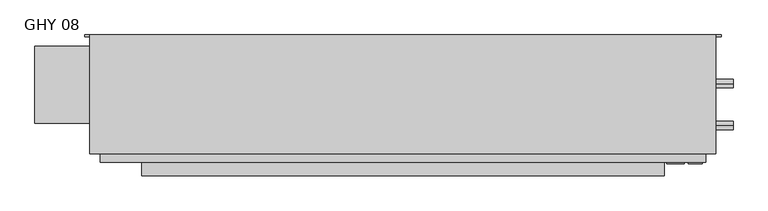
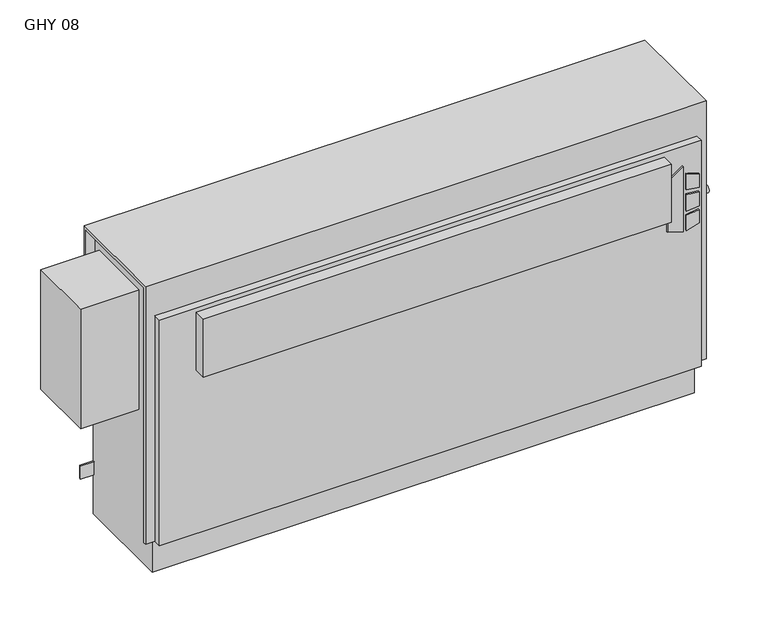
"""IFC4 building model written with IfcOpenShell, lengths in millimetres: proxy geometry, Vertical_Fan_Coil_Unit_-_GHY_-_IEC_-_2-Pipe_FS-FR_RH_2022 : GHY 08."""

from ifc_helpers import new_model, si_unit, point, frame, frame_2d, origin, place, context, project, spatial, polyline, circle_curve, trimmed, segment, composite_curve, outline, extrude, source, transform, mapped, element, save
from ifc_brep_helpers import plane_surface, revolved_surface, advanced_brep


def ghy_08_3972cffb(model_context):
    return source(origin(), model_context, "Body", "SolidModel", [
        extrude(outline(polyline([(391.6086829, 639.8368862), (381.6606126, 672.0102728), (523.831537, 672.0102728), (500.8095309, 639.8368862), (391.6086829, 639.8368862)])), frame((0.0, 6.35, 0.0), z_axis=(0.0, 1.0, 0.0), x_axis=(0.0, 0.0, 1.0)), (0.0, 0.0, 1.0), 3.175),
        extrude(outline(polyline([(470.6079683, 678.7686058), (467.4055757, 704.85), (496.6344168, 704.85), (504.6988318, 678.7686058), (470.6079683, 678.7686058)])), frame((0.0, 6.35, 0.0), z_axis=(0.0, 1.0, 0.0), x_axis=(0.0, 0.0, 1.0)), (0.0, 0.0, 1.0), 3.175),
        extrude(outline(polyline([(418.7444414, 704.85), (415.0789404, 678.7686058), (381.6606126, 678.7686058), (390.2948498, 704.85), (418.7444414, 704.85)])), frame((0.0, 6.35, 0.0), z_axis=(0.0, 1.0, 0.0), x_axis=(0.0, 0.0, 1.0)), (0.0, 0.0, 1.0), 3.175),
        extrude(outline(polyline([(458.0596028, 704.85), (460.3414292, 678.7686058), (424.4038806, 678.7686058), (427.1451456, 704.85), (458.0596028, 704.85)])), frame((0.0, 6.35, 0.0), z_axis=(0.0, 1.0, 0.0), x_axis=(0.0, 0.0, 1.0)), (0.0, 0.0, 1.0), 3.175),
        extrude(outline(polyline([(635.0, -15.875), (-330.2, -15.875), (-330.2, 9.525), (635.0, 9.525), (635.0, -15.875)])), frame((0.0, 0.0, 428.625), z_axis=(0.0, 0.0, 1.0), x_axis=(1.0, 0.0, 0.0)), (0.0, 0.0, 1.0), 127.0),
        extrude(outline(composite_curve([segment(trimmed(circle_curve(frame_2d((77.597, 401.574)), 7.9375), [point((77.597, 393.6365))], [point((77.597, 409.5115))], False, "CARTESIAN"), True, "CONTINUOUS"), segment(trimmed(circle_curve(frame_2d((77.597, 401.574)), 7.9375), [point((77.597, 409.5115))], [point((77.597, 393.6365))], False, "CARTESIAN"), True, "CONTINUOUS")], self_intersect=False)), frame((711.2, 0.0, 0.0), z_axis=(1.0, 0.0, 0.0), x_axis=(0.0, 1.0, 0.0)), (0.0, 0.0, 1.0), 50.8),
        extrude(outline(composite_curve([segment(trimmed(circle_curve(frame_2d((154.559, 540.512)), 7.9375), [point((154.559, 532.5745))], [point((154.559, 548.4495))], False, "CARTESIAN"), True, "CONTINUOUS"), segment(trimmed(circle_curve(frame_2d((154.559, 540.512)), 7.9375), [point((154.559, 548.4495))], [point((154.559, 532.5745))], False, "CARTESIAN"), True, "CONTINUOUS")], self_intersect=False)), frame((711.2, 0.0, 0.0), z_axis=(1.0, 0.0, 0.0), x_axis=(0.0, 1.0, 0.0)), (0.0, 0.0, 1.0), 50.8),
        extrude(outline(polyline([(-527.05, 223.266), (-406.4, 223.266), (-406.4, 81.534), (-527.05, 81.534), (-527.05, 223.266)])), frame((0.0, 0.0, 327.025), z_axis=(0.0, 0.0, 1.0), x_axis=(1.0, 0.0, 0.0)), (0.0, 0.0, 1.0), 260.35),
        advanced_brep(
        [(730.25, 244.475, 635.0), (-425.45, 244.475, 635.0), (-425.45, 25.4, 635.0), (730.25, 25.4, 635.0), (-406.4, 244.475, 0.0), (711.2, 244.475, 0.0), (711.2, 34.925, 0.0), (-406.4, 34.925, 0.0), (730.25, 244.475, 558.8), (711.2, 244.475, 558.8), (711.2, 244.475, 414.3375), (739.775, 244.475, 414.3375), (739.775, 244.475, 385.7625), (711.2, 244.475, 385.7625), (711.2, 244.475, 287.3375), (739.775, 244.475, 287.3375), (739.775, 244.475, 258.7625), (711.2, 244.475, 258.7625), (711.2, 244.475, 141.2875), (739.775, 244.475, 141.2875), (739.775, 244.475, 112.7125), (711.2, 244.475, 112.7125), (-406.4, 244.475, 87.3125), (-434.975, 244.475, 87.3125), (-434.975, 244.475, 115.8875), (-406.4, 244.475, 115.8875), (-406.4, 244.475, 258.7625), (-434.975, 244.475, 258.7625), (-434.975, 244.475, 287.3375), (-406.4, 244.475, 287.3375), (-406.4, 244.475, 385.7625), (-434.975, 244.475, 385.7625), (-434.975, 244.475, 414.3375), (-406.4, 244.475, 414.3375), (-406.4, 244.475, 558.8), (-425.45, 244.475, 558.8), (729.4626, 244.475, 127.0), (718.3374, 244.475, 127.0), (729.4626, 244.475, 273.05), (718.3374, 244.475, 273.05), (-413.5374, 244.475, 273.05), (-424.6626, 244.475, 273.05), (729.4626, 244.475, 400.05), (718.3374, 244.475, 400.05), (-413.5374, 244.475, 400.05), (-424.6626, 244.475, 400.05), (-425.45, 238.125, 558.8), (-425.45, 238.125, 628.65), (-425.45, 31.75, 628.65), (-425.45, 31.75, 73.025), (-425.45, 25.4, 73.025), (711.2, 9.525, 565.15), (-406.4, 9.525, 565.15), (-406.4, 9.525, 73.025), (711.2, 9.525, 73.025), (730.25, 25.4, 73.025), (730.25, 31.75, 73.025), (730.25, 31.75, 628.65), (730.25, 238.125, 628.65), (730.25, 238.125, 558.8), (-406.4, 25.4, 73.025), (-406.4, 25.4, 565.15), (711.2, 25.4, 565.15), (711.2, 25.4, 73.025), (-406.4, 31.75, 73.025), (-406.4, 34.925, 73.025), (711.2, 34.925, 73.025), (711.2, 31.75, 73.025), (711.2, 241.3, 112.7125), (711.2, 241.3, 141.2875), (711.2, 241.3, 258.7625), (711.2, 241.3, 287.3375), (711.2, 241.3, 385.7625), (711.2, 241.3, 414.3375), (711.2, 238.125, 558.8), (711.2, 238.125, 628.65), (711.2, 31.75, 628.65), (-406.4, 31.75, 628.65), (-406.4, 238.125, 628.65), (-406.4, 238.125, 558.8), (-406.4, 241.3, 414.3375), (-406.4, 241.3, 385.7625), (-406.4, 241.3, 287.3375), (-406.4, 241.3, 258.7625), (-406.4, 241.3, 115.8875), (-406.4, 241.3, 87.3125), (739.775, 241.3, 112.7125), (739.775, 241.3, 141.2875), (718.3374, 241.3, 127.0), (729.4626, 241.3, 127.0), (739.775, 241.3, 258.7625), (739.775, 241.3, 287.3375), (718.3374, 241.3, 273.05), (729.4626, 241.3, 273.05), (739.775, 241.3, 385.7625), (739.775, 241.3, 414.3375), (718.3374, 241.3, 400.05), (729.4626, 241.3, 400.05), (-434.975, 241.3, 115.8875), (-434.975, 241.3, 87.3125), (-434.975, 241.3, 287.3375), (-434.975, 241.3, 258.7625), (-424.6626, 241.3, 273.05), (-413.5374, 241.3, 273.05), (-434.975, 241.3, 414.3375), (-434.975, 241.3, 385.7625), (-424.6626, 241.3, 400.05), (-413.5374, 241.3, 400.05)],
        [
            (0, 1),
            (1, 2),
            (2, 3),
            (3, 0),
            (4, 5),
            (5, 6),
            (6, 7),
            (7, 4),
            (0, 8),
            (8, 9),
            (9, 10),
            (10, 11),
            (11, 12),
            (12, 13),
            (13, 14),
            (14, 15),
            (15, 16),
            (16, 17),
            (17, 18),
            (18, 19),
            (19, 20),
            (20, 21),
            (21, 5),
            (4, 22),
            (22, 23),
            (23, 24),
            (24, 25),
            (25, 26),
            (26, 27),
            (27, 28),
            (28, 29),
            (29, 30),
            (30, 31),
            (31, 32),
            (32, 33),
            (33, 34),
            (34, 35),
            (35, 1),
            (36, 37, circle_curve(frame((723.9, 244.475, 127.0), z_axis=(0.0, -1.0, 0.0), x_axis=(-1.0, 0.0, 0.0)), 5.5626)),
            (37, 36, circle_curve(frame((723.9, 244.475, 127.0), z_axis=(0.0, -1.0, 0.0), x_axis=(-1.0, 0.0, 0.0)), 5.5626)),
            (38, 39, circle_curve(frame((723.9, 244.475, 273.05), z_axis=(0.0, -1.0, 0.0), x_axis=(-1.0, 0.0, 0.0)), 5.5626)),
            (39, 38, circle_curve(frame((723.9, 244.475, 273.05), z_axis=(0.0, -1.0, 0.0), x_axis=(-1.0, 0.0, 0.0)), 5.5626)),
            (40, 41, circle_curve(frame((-419.1, 244.475, 273.05), z_axis=(0.0, -1.0, 0.0), x_axis=(-1.0, 0.0, 0.0)), 5.5626)),
            (41, 40, circle_curve(frame((-419.1, 244.475, 273.05), z_axis=(0.0, -1.0, 0.0), x_axis=(-1.0, 0.0, 0.0)), 5.5626)),
            (42, 43, circle_curve(frame((723.9, 244.475, 400.05), z_axis=(0.0, -1.0, 0.0), x_axis=(-1.0, 0.0, 0.0)), 5.5626)),
            (43, 42, circle_curve(frame((723.9, 244.475, 400.05), z_axis=(0.0, -1.0, 0.0), x_axis=(-1.0, 0.0, 0.0)), 5.5626)),
            (44, 45, circle_curve(frame((-419.1, 244.475, 400.05), z_axis=(0.0, -1.0, 0.0), x_axis=(-1.0, 0.0, 0.0)), 5.5626)),
            (45, 44, circle_curve(frame((-419.1, 244.475, 400.05), z_axis=(0.0, -1.0, 0.0), x_axis=(-1.0, 0.0, 0.0)), 5.5626)),
            (35, 46),
            (46, 47),
            (47, 48),
            (48, 49),
            (49, 50),
            (50, 2),
            (51, 52),
            (52, 53),
            (53, 54),
            (54, 51),
            (3, 55),
            (55, 56),
            (56, 57),
            (57, 58),
            (58, 59),
            (59, 8),
            (50, 60),
            (60, 61),
            (61, 62),
            (62, 63),
            (63, 55),
            (51, 62),
            (61, 52),
            (53, 60),
            (49, 64),
            (64, 65),
            (65, 66),
            (66, 67),
            (67, 56),
            (63, 54),
            (6, 66),
            (65, 7),
            (21, 68),
            (68, 69),
            (69, 18),
            (17, 70),
            (70, 71),
            (71, 14),
            (13, 72),
            (72, 73),
            (73, 10),
            (9, 74),
            (74, 75),
            (75, 76),
            (76, 67),
            (64, 77),
            (77, 78),
            (78, 79),
            (79, 34),
            (33, 80),
            (80, 81),
            (81, 30),
            (29, 82),
            (82, 83),
            (83, 26),
            (25, 84),
            (84, 85),
            (85, 22),
            (74, 59),
            (58, 75),
            (76, 57),
            (48, 77),
            (79, 46),
            (78, 47),
            (68, 86),
            (86, 87),
            (87, 69),
            (88, 89, circle_curve(frame((723.9, 241.3, 127.0), z_axis=(0.0, 1.0, 0.0), x_axis=(-1.0, 0.0, 0.0)), 5.5626)),
            (89, 88, circle_curve(frame((723.9, 241.3, 127.0), z_axis=(0.0, 1.0, 0.0), x_axis=(-1.0, 0.0, 0.0)), 5.5626)),
            (90, 91),
            (91, 71),
            (70, 90),
            (92, 93, circle_curve(frame((723.9, 241.3, 273.05), z_axis=(0.0, 1.0, 0.0), x_axis=(-1.0, 0.0, 0.0)), 5.5626)),
            (93, 92, circle_curve(frame((723.9, 241.3, 273.05), z_axis=(0.0, 1.0, 0.0), x_axis=(-1.0, 0.0, 0.0)), 5.5626)),
            (94, 95),
            (95, 73),
            (72, 94),
            (96, 97, circle_curve(frame((723.9, 241.3, 400.05), z_axis=(0.0, 1.0, 0.0), x_axis=(-1.0, 0.0, 0.0)), 5.5626)),
            (97, 96, circle_curve(frame((723.9, 241.3, 400.05), z_axis=(0.0, 1.0, 0.0), x_axis=(-1.0, 0.0, 0.0)), 5.5626)),
            (98, 99),
            (99, 85),
            (84, 98),
            (82, 100),
            (100, 101),
            (101, 83),
            (102, 103, circle_curve(frame((-419.1, 241.3, 273.05), z_axis=(0.0, 1.0, 0.0), x_axis=(-1.0, 0.0, 0.0)), 5.5626)),
            (103, 102, circle_curve(frame((-419.1, 241.3, 273.05), z_axis=(0.0, 1.0, 0.0), x_axis=(-1.0, 0.0, 0.0)), 5.5626)),
            (104, 105),
            (105, 81),
            (80, 104),
            (106, 107, circle_curve(frame((-419.1, 241.3, 400.05), z_axis=(0.0, 1.0, 0.0), x_axis=(-1.0, 0.0, 0.0)), 5.5626)),
            (107, 106, circle_curve(frame((-419.1, 241.3, 400.05), z_axis=(0.0, 1.0, 0.0), x_axis=(-1.0, 0.0, 0.0)), 5.5626)),
            (87, 19),
            (86, 20),
            (16, 90),
            (91, 15),
            (12, 94),
            (95, 11),
            (24, 98),
            (99, 23),
            (101, 27),
            (100, 28),
            (32, 104),
            (105, 31),
            (88, 37),
            (36, 89),
            (92, 39),
            (38, 93),
            (102, 41),
            (40, 103),
            (96, 43),
            (42, 97),
            (106, 45),
            (44, 107),
        ],
        [
            plane_surface(frame((-425.45, 244.475, 635.0), z_axis=(0.0, 0.0, 1.0), x_axis=(-1.0, 0.0, 0.0))),
            plane_surface(frame((-425.45, 244.475, 0.0), z_axis=(0.0, 0.0, -1.0), x_axis=(1.0, 0.0, 0.0))),
            plane_surface(frame((730.25, 244.475, 635.0), z_axis=(0.0, 1.0, 0.0), x_axis=(0.0, 0.0, -1.0))),
            plane_surface(frame((-425.45, 244.475, 635.0), z_axis=(-1.0, 0.0, 0.0), x_axis=(0.0, 0.0, -1.0))),
            plane_surface(frame((-425.45, 9.525, 635.0), z_axis=(0.0, -1.0, 0.0), x_axis=(0.0, 0.0, -1.0))),
            plane_surface(frame((730.25, 9.525, 635.0), z_axis=(1.0, 0.0, 0.0), x_axis=(0.0, 0.0, -1.0))),
            plane_surface(frame((-704.85, 25.4, 635.0), z_axis=(0.0, -1.0, 0.0), x_axis=(1.0, 0.0, 0.0))),
            plane_surface(frame((-704.85, 25.4, 565.15), z_axis=(0.0, 0.0, 1.0), x_axis=(1.0, 0.0, 0.0))),
            plane_surface(frame((-425.45, 9.525, 73.025), z_axis=(0.0, 0.0, -1.0), x_axis=(1.0, 0.0, 0.0))),
            plane_surface(frame((-425.45, 34.925, 73.025), z_axis=(0.0, -1.0, 0.0), x_axis=(1.0, 0.0, 0.0))),
            plane_surface(frame((711.2, 25.4, 73.025), z_axis=(1.0, 0.0, 0.0), x_axis=(0.0, -1.0, 0.0))),
            plane_surface(frame((-406.4, 25.4, 565.15), z_axis=(-1.0, 0.0, 0.0), x_axis=(0.0, -1.0, 0.0))),
            plane_surface(frame((711.2, 244.475, 0.0), z_axis=(1.0, 0.0, 0.0), x_axis=(0.0, -1.0, 0.0))),
            plane_surface(frame((-406.4, 244.475, 73.025), z_axis=(-1.0, 0.0, 0.0), x_axis=(0.0, -1.0, 0.0))),
            plane_surface(frame((711.2, 238.125, 628.65), z_axis=(0.0, -1.0, 0.0), x_axis=(1.0, 0.0, 0.0))),
            plane_surface(frame((711.2, 238.125, 558.8), z_axis=(0.0, 0.0, -1.0), x_axis=(1.0, 0.0, 0.0))),
            plane_surface(frame((711.2, 31.75, 73.025), z_axis=(0.0, 1.0, 0.0), x_axis=(1.0, 0.0, 0.0))),
            plane_surface(frame((711.2, 31.75, 628.65), z_axis=(0.0, 0.0, -1.0), x_axis=(1.0, 0.0, 0.0))),
            plane_surface(frame((-406.4, 31.75, 628.65), z_axis=(0.0, 1.0, 0.0), x_axis=(-1.0, 0.0, 0.0))),
            plane_surface(frame((-406.4, 244.475, 558.8), z_axis=(0.0, 0.0, -1.0), x_axis=(-1.0, 0.0, 0.0))),
            plane_surface(frame((-406.4, 238.125, 558.8), z_axis=(0.0, -1.0, 0.0), x_axis=(-1.0, 0.0, 0.0))),
            plane_surface(frame((-406.4, 238.125, 628.65), z_axis=(0.0, 0.0, -1.0), x_axis=(-1.0, 0.0, 0.0))),
            plane_surface(frame((739.775, 241.3, 141.2875), z_axis=(0.0, -1.0, 0.0), x_axis=(-1.0, 0.0, 0.0))),
            plane_surface(frame((711.2, 244.475, 141.2875), z_axis=(0.0, 0.0, 1.0), x_axis=(0.0, -1.0, 0.0))),
            plane_surface(frame((739.775, 244.475, 141.2875), z_axis=(1.0, 0.0, 0.0), x_axis=(0.0, -1.0, 0.0))),
            plane_surface(frame((739.775, 244.475, 112.7125), z_axis=(0.0, 0.0, -1.0), x_axis=(0.0, -1.0, 0.0))),
            plane_surface(frame((739.775, 244.475, 258.7625), z_axis=(0.0, 0.0, -1.0), x_axis=(0.0, -1.0, 0.0))),
            plane_surface(frame((711.2, 244.475, 287.3375), z_axis=(0.0, 0.0, 1.0), x_axis=(0.0, -1.0, 0.0))),
            plane_surface(frame((739.775, 244.475, 287.3375), z_axis=(1.0, 0.0, 0.0), x_axis=(0.0, -1.0, 0.0))),
            plane_surface(frame((739.775, 244.475, 385.7625), z_axis=(0.0, 0.0, -1.0), x_axis=(0.0, -1.0, 0.0))),
            plane_surface(frame((711.2, 244.475, 414.3375), z_axis=(0.0, 0.0, 1.0), x_axis=(0.0, -1.0, 0.0))),
            plane_surface(frame((739.775, 244.475, 414.3375), z_axis=(1.0, 0.0, 0.0), x_axis=(0.0, -1.0, 0.0))),
            plane_surface(frame((-434.975, 244.475, 115.8875), z_axis=(0.0, 0.0, 1.0), x_axis=(0.0, -1.0, 0.0))),
            plane_surface(frame((-406.4, 244.475, 87.3125), z_axis=(0.0, 0.0, -1.0), x_axis=(0.0, -1.0, 0.0))),
            plane_surface(frame((-434.975, 244.475, 87.3125), z_axis=(-1.0, 0.0, 0.0), x_axis=(0.0, -1.0, 0.0))),
            plane_surface(frame((-406.4, 244.475, 258.7625), z_axis=(0.0, 0.0, -1.0), x_axis=(0.0, -1.0, 0.0))),
            plane_surface(frame((-434.975, 244.475, 258.7625), z_axis=(-1.0, 0.0, 0.0), x_axis=(0.0, -1.0, 0.0))),
            plane_surface(frame((-434.975, 244.475, 287.3375), z_axis=(0.0, 0.0, 1.0), x_axis=(0.0, -1.0, 0.0))),
            plane_surface(frame((-434.975, 244.475, 414.3375), z_axis=(0.0, 0.0, 1.0), x_axis=(0.0, -1.0, 0.0))),
            plane_surface(frame((-406.4, 244.475, 385.7625), z_axis=(0.0, 0.0, -1.0), x_axis=(0.0, -1.0, 0.0))),
            plane_surface(frame((-434.975, 244.475, 385.7625), z_axis=(-1.0, 0.0, 0.0), x_axis=(0.0, -1.0, 0.0))),
            revolved_surface(polyline([(718.3374, 241.3, 127.0), (718.3374, 244.475, 127.0)]), (723.9, 244.475, 127.0), (0.0, -1.0, 0.0)),
            revolved_surface(polyline([(718.3374, 241.3, 273.05), (718.3374, 244.475, 273.05)]), (723.9, 244.475, 273.05), (0.0, -1.0, 0.0)),
            revolved_surface(polyline([(-424.6626, 241.3, 273.05), (-424.6626, 244.475, 273.05)]), (-419.1, 244.475, 273.05), (0.0, -1.0, 0.0)),
            revolved_surface(polyline([(718.3374, 241.3, 400.05), (718.3374, 244.475, 400.05)]), (723.9, 244.475, 400.05), (0.0, -1.0, 0.0)),
            revolved_surface(polyline([(-424.6626, 241.3, 400.05), (-424.6626, 244.475, 400.05)]), (-419.1, 244.475, 400.05), (0.0, -1.0, 0.0)),
        ],
        [
            (0, [[1, 2, 3, 4]]),
            (1, [[5, 6, 7, 8]]),
            (2, [[-1, 9, 10, 11, 12, 13, 14, 15, 16, 17, 18, 19, 20, 21, 22, 23, -5, 24, 25, 26, 27, 28, 29, 30, 31, 32, 33, 34, 35, 36, 37, 38], [39, 40], [41, 42], [43, 44], [45, 46], [47, 48]]),
            (3, [[-2, -38, 49, 50, 51, 52, 53, 54]]),
            (4, [[55, 56, 57, 58]]),
            (5, [[-4, 59, 60, 61, 62, 63, 64, -9]]),
            (6, [[-3, -54, 65, 66, 67, 68, 69, -59]]),
            (7, [[-55, 70, -67, 71]]),
            (8, [[-57, 72, -65, -53, 73, 74, 75, 76, 77, -60, -69, 78]]),
            (9, [[-7, 79, -75, 80]]),
            (10, [[-68, -70, -58, -78]]),
            (11, [[-66, -72, -56, -71]]),
            (12, [[-6, -23, 81, 82, 83, -19, 84, 85, 86, -15, 87, 88, 89, -11, 90, 91, 92, 93, -76, -79]]),
            (13, [[-8, -80, -74, 94, 95, 96, 97, -36, 98, 99, 100, -32, 101, 102, 103, -28, 104, 105, 106, -24]]),
            (14, [[-91, 107, -63, 108]]),
            (15, [[-90, -10, -64, -107]]),
            (16, [[-93, 109, -61, -77]]),
            (17, [[-92, -108, -62, -109]]),
            (18, [[-94, -73, -52, 110]]),
            (19, [[-97, 111, -49, -37]]),
            (20, [[-96, 112, -50, -111]]),
            (21, [[-95, -110, -51, -112]]),
            (22, [[113, 114, 115, -82], [116, 117]]),
            (22, [[118, 119, -85, 120], [121, 122]]),
            (22, [[123, 124, -88, 125], [126, 127]]),
            (22, [[128, 129, -105, 130]]),
            (22, [[131, 132, 133, -102], [134, 135]]),
            (22, [[136, 137, -99, 138], [139, 140]]),
            (23, [[-115, 141, -20, -83]]),
            (24, [[-114, 142, -21, -141]]),
            (25, [[-113, -81, -22, -142]]),
            (26, [[-120, -84, -18, 143]]),
            (27, [[-119, 144, -16, -86]]),
            (28, [[-118, -143, -17, -144]]),
            (29, [[-125, -87, -14, 145]]),
            (30, [[-124, 146, -12, -89]]),
            (31, [[-123, -145, -13, -146]]),
            (32, [[-130, -104, -27, 147]]),
            (33, [[-129, 148, -25, -106]]),
            (34, [[-128, -147, -26, -148]]),
            (35, [[-133, 149, -29, -103]]),
            (36, [[-132, 150, -30, -149]]),
            (37, [[-131, -101, -31, -150]]),
            (38, [[-138, -98, -35, 151]]),
            (39, [[-137, 152, -33, -100]]),
            (40, [[-136, -151, -34, -152]]),
            (41, [[153, -39, 154, -116]]),
            (41, [[-153, -117, -154, -40]]),
            (42, [[155, -41, 156, -121]]),
            (42, [[-155, -122, -156, -42]]),
            (43, [[157, -43, 158, -134]]),
            (43, [[-157, -135, -158, -44]]),
            (44, [[159, -45, 160, -126]]),
            (44, [[-159, -127, -160, -46]]),
            (45, [[161, -47, 162, -139]]),
            (45, [[-161, -140, -162, -48]]),
        ],
    ),
    ])


if __name__ == "__main__":
    model = new_model("IFC4")
    model_context = context("Model", 3, world=origin())
    ifc_project = project(units=[si_unit("LENGTHUNIT", "METRE", prefix="MILLI")], contexts=[model_context])
    site = spatial("IfcSite", under=ifc_project)
    building = spatial("IfcBuilding", under=site)
    placement = place(None, origin())
    ghy_08_shape = ghy_08_3972cffb(model_context)
    element("IfcBuildingElementProxy", 1, Name="Vertical_Fan_Coil_Unit_-_GHY_-_IEC_-_2-Pipe_FS-FR_RH_2022 : GHY 08", ObjectType="Vertical_Fan_Coil_Unit_-_GHY_-_IEC_-_2-Pipe_FS-FR_RH_2022 : GHY 08", at=placement, inside=building, context=model_context, shape_type="MappedRepresentation", body=[
        mapped(ghy_08_shape, transform((0.0, 0.0, 0.0), x_axis=(1.0, 0.0, 0.0), y_axis=(0.0, 1.0, 0.0), z_axis=(0.0, 0.0, 1.0))),
    ])
    save(model, "model.ifc")
